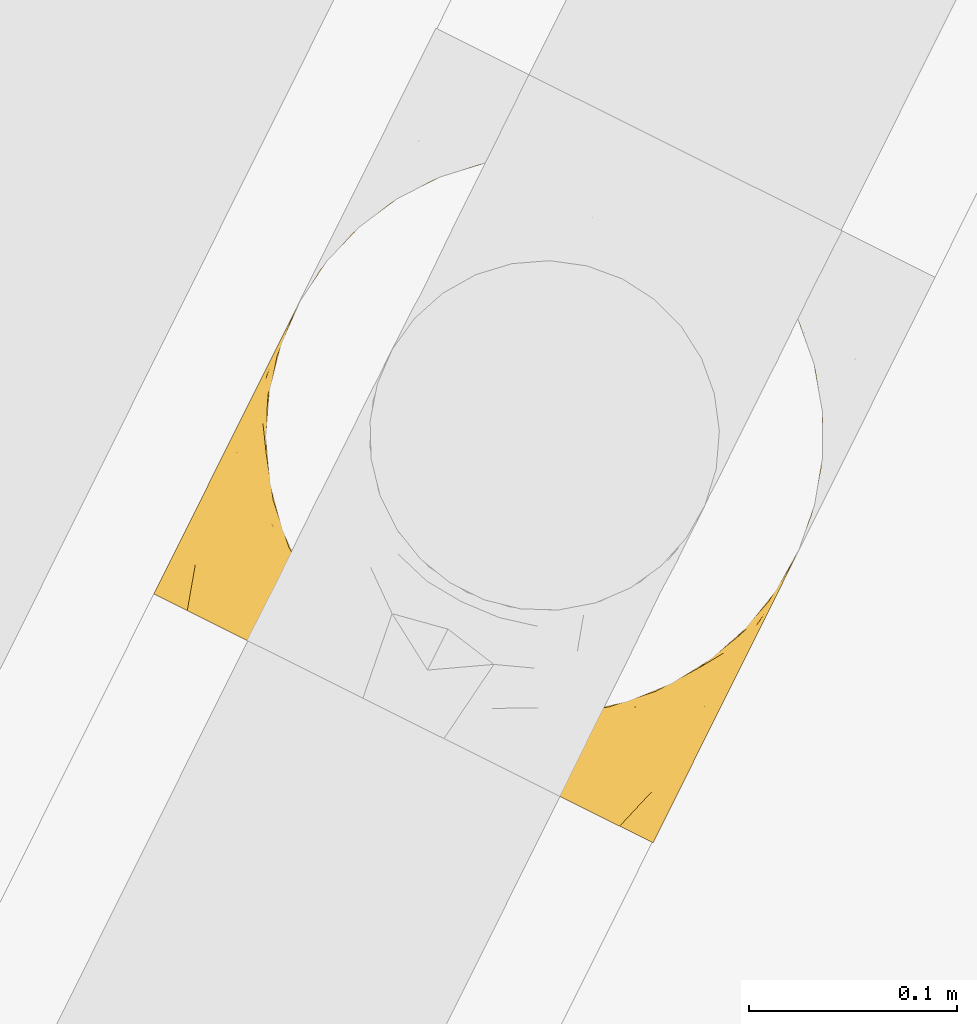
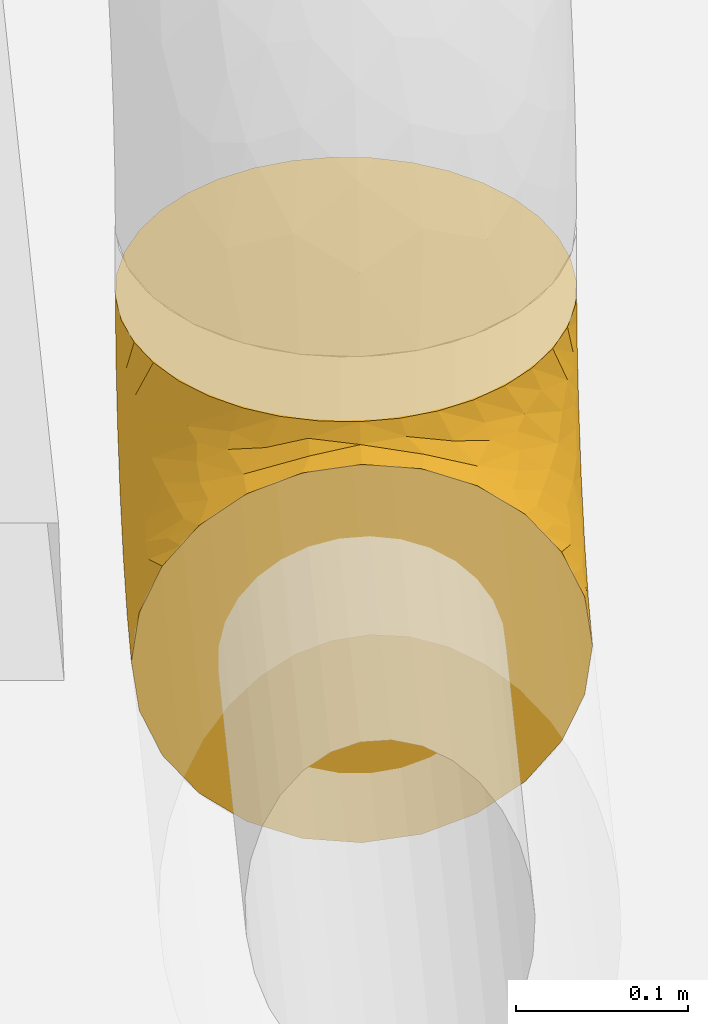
# One storey, part 50 of 91: 1 covering.
"""IFC2X3 building model written with IfcOpenShell, lengths in metres."""

from ifc_helpers import new_model, entity, si_unit, converted_unit, derived_unit, direction, frame, origin, place, context, subcontext, project, spatial, faceted_brep, element, save


model = new_model("IFC2X3")

# Units and contexts
model_context = context("Model", 3, precision=1e-05, world=origin(), true_north=direction((0.894925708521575, 0.446215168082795)))
context_of_model = context(None, 3, precision=1e-05, world=origin(), true_north=direction((0.894925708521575, 0.446215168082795)))
body_context = subcontext(model_context, "Body", "Model", "MODEL_VIEW")
ifc_project = project(units=[si_unit("LENGTHUNIT", "METRE"), si_unit("AREAUNIT", "SQUARE_METRE"), si_unit("VOLUMEUNIT", "CUBIC_METRE"), converted_unit("PLANEANGLEUNIT", "DEGREE", entity("IfcRatioMeasure", 0.0174532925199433), si_unit("PLANEANGLEUNIT", "RADIAN"), dimensions=[0, 0, 0, 0, 0, 0, 0]), si_unit("MASSUNIT", "GRAM", prefix="KILO"), si_unit("TIMEUNIT", "SECOND"), si_unit("FREQUENCYUNIT", "HERTZ"), si_unit("THERMODYNAMICTEMPERATUREUNIT", "DEGREE_CELSIUS"), derived_unit("THERMALTRANSMITTANCEUNIT", [(si_unit("MASSUNIT", "GRAM", prefix="KILO"), 1), (si_unit("THERMODYNAMICTEMPERATUREUNIT", "KELVIN"), -1), (si_unit("TIMEUNIT", "SECOND"), -3)]), derived_unit("VOLUMETRICFLOWRATEUNIT", [(si_unit("LENGTHUNIT", "METRE"), 3), (si_unit("TIMEUNIT", "SECOND"), -1)]), si_unit("ELECTRICCURRENTUNIT", "AMPERE"), si_unit("ELECTRICVOLTAGEUNIT", "VOLT"), si_unit("POWERUNIT", "WATT"), si_unit("FORCEUNIT", "NEWTON", prefix="KILO"), si_unit("ILLUMINANCEUNIT", "LUX"), si_unit("LUMINOUSFLUXUNIT", "LUMEN"), si_unit("LUMINOUSINTENSITYUNIT", "CANDELA"), si_unit("PRESSUREUNIT", "PASCAL")], contexts=[model_context, context_of_model])

# Site, building, storey
site_placement = place(None, frame((218.228324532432, 584.720189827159, 0.0), z_axis=(0.0, 0.0, 1.0), x_axis=(0.446215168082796, 0.894925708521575, 0.0)))
site = spatial("IfcSite", under=ifc_project, at=site_placement, Name="Default", CompositionType="ELEMENT")
building_placement = place(site_placement, origin())
building = spatial("IfcBuilding", under=site, at=building_placement, CompositionType="ELEMENT")
storey_placement = place(building_placement, origin())
storey = spatial("IfcBuildingStorey", under=building, at=storey_placement, Name="0 - Piano Terra", CompositionType="ELEMENT", Elevation=0.0)

# Covering
covering_placement = place(storey_placement, frame((-11.3326692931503, -4.52096176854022, 3.41425472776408)))
element("IfcCovering", 1, at=covering_placement, inside=storey, Name="Isolamento tubazione:Default", ObjectType="Isolamento tubazione:Default", PredefinedType="INSULATION", context=body_context, shape_type="Brep", body=[
    faceted_brep([(0.199474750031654, 0.00968458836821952, 0.287745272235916), (0.220669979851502, 0.0195677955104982, 0.287745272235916), (0.239827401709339, 0.0329822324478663, 0.287745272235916), (0.256363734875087, 0.0495196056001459, 0.287745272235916), (0.269775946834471, 0.0686761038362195, 0.287745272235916), (0.27965674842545, 0.0898679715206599, 0.287745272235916), (0.285707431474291, 0.112451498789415, 0.287745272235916), (0.287745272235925, 0.135745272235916, 0.287745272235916), (0.285707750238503, 0.159037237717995, 0.287745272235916), (0.279655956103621, 0.181624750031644, 0.287745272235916), (0.269772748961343, 0.202819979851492, 0.287745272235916), (0.256358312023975, 0.22197740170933, 0.287745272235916), (0.239820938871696, 0.238513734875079, 0.287745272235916), (0.220664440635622, 0.251925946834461, 0.287745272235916), (0.19947257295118, 0.26180674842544, 0.287745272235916), (0.176889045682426, 0.267857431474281, 0.287745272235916), (0.153595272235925, 0.269895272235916, 0.287745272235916), (0.138898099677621, 0.268609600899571, 0.287745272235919), (0.130303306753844, 0.267857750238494, 0.287745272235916), (0.107715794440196, 0.261805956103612, 0.287745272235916), (0.0865205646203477, 0.251922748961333, 0.287745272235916), (0.0673631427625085, 0.238508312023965, 0.287745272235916), (0.0508268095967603, 0.221970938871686, 0.287745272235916), (0.0374145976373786, 0.202814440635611, 0.287745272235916), (0.0275337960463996, 0.181622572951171, 0.287745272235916), (0.0214831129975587, 0.159039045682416, 0.287745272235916), (0.0194452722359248, 0.135745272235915, 0.287745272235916), (0.0214827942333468, 0.112453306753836, 0.287745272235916), (0.0275345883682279, 0.0898657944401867, 0.287745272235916), (0.0374177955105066, 0.0686705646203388, 0.287745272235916), (0.0508322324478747, 0.0495131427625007, 0.287745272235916), (0.0673696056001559, 0.0329768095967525, 0.287745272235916), (0.0865261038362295, 0.0195645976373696, 0.287745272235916), (0.107717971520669, 0.00968379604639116, 0.287745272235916), (0.130301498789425, 0.00363311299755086, 0.287745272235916), (0.138898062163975, 0.00288104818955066, 0.287745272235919), (0.153595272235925, 0.0015952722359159, 0.287745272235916), (0.176887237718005, 0.00363279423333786, 0.287745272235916), (0.0015952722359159, 0.135745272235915, 0.269895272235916), (0.0015952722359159, 0.170465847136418, 0.265324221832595), (0.0015952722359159, 0.202820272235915, 0.251922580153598), (0.0015952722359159, 0.230603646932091, 0.230603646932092), (0.0015952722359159, 0.241263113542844, 0.216711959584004), (0.0015952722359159, 0.251922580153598, 0.202820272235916), (0.00159527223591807, 0.258623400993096, 0.186643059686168), (0.0015952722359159, 0.265324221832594, 0.17046584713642), (0.00159527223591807, 0.267930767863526, 0.150667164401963), (0.0015952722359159, 0.269895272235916, 0.135745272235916), (0.0015952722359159, 0.265324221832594, 0.101024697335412), (0.0015952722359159, 0.251922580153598, 0.0686702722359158), (0.0015952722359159, 0.230603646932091, 0.0408868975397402), (0.0015952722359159, 0.202820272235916, 0.0195679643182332), (0.0015952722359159, 0.170465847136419, 0.00616632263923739), (0.0015952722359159, 0.135745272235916, 0.0015952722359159), (0.0015952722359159, 0.101024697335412, 0.00616632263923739), (0.0015952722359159, 0.0686702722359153, 0.0195679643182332), (0.0015952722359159, 0.0408868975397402, 0.0408868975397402), (0.0015952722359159, 0.0195679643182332, 0.0686702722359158), (0.0015952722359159, 0.00616632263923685, 0.101024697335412), (0.0015952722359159, 0.00159527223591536, 0.135745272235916), (0.0015952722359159, 0.00355977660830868, 0.150667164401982), (0.0015952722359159, 0.00616632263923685, 0.170465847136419), (0.00159527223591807, 0.0128671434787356, 0.186643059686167), (0.0015952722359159, 0.0195679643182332, 0.202820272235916), (0.0015952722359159, 0.0302274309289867, 0.216711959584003), (0.0015952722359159, 0.0408868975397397, 0.230603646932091), (0.0015952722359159, 0.0686702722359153, 0.251922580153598), (0.0015952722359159, 0.101024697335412, 0.265324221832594), (0.0793389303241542, 0.0978975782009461, 0.018025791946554), (0.0574203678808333, 0.135745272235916, 0.0070935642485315), (0.11110013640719, 0.135745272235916, 0.0233771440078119), (0.282246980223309, 0.135745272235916, 0.231920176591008), (0.273936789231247, 0.11177261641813, 0.207241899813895), (0.26596340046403, 0.135745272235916, 0.178240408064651), (0.251669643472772, 0.100505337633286, 0.158630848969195), (0.24115647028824, 0.0712492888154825, 0.164011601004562), (0.219063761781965, 0.0978507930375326, 0.110284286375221), (0.138231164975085, 0.103999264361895, 0.0406698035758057), (0.124159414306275, 0.0722251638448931, 0.0469889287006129), (0.0570178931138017, 0.0160910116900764, 0.0824390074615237), (0.188464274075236, 0.058552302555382, 0.104510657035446), (0.21482195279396, 0.0480332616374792, 0.150639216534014), (0.191593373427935, 0.0275482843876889, 0.1558220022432), (0.0819819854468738, 0.0374034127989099, 0.0581703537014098), (0.16057169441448, 0.135745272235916, 0.0498202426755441), (0.178269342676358, 0.0106572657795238, 0.19301425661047), (0.152774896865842, 0.0137471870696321, 0.145189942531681), (0.203933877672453, 0.135745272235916, 0.0854066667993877), (0.239520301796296, 0.135745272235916, 0.128768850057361), (0.0926265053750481, 0.00879690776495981, 0.114887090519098), (0.0427674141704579, 0.00413805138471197, 0.114577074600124), (0.0603098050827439, 0.0597755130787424, 0.0318283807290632), (0.225253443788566, 0.0346326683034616, 0.200254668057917), (0.106232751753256, 0.0201514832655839, 0.0941366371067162), (0.0409357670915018, 0.0015952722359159, 0.140924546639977), (0.0283269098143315, 0.0015952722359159, 0.139264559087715), (0.0157180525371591, 0.0015952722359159, 0.137604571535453), (0.0775952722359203, 0.0015952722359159, 0.156109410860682), (0.05926551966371, 0.0015952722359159, 0.14851697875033), (0.212298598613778, 0.0184912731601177, 0.235124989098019), (0.175571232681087, 0.0852623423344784, 0.073111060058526), (0.181506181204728, 0.112239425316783, 0.0679034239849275), (0.142030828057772, 0.00457586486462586, 0.17495543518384), (0.247977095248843, 0.0460705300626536, 0.235921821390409), (0.109075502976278, 0.0015952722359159, 0.180265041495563), (0.0933353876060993, 0.0015952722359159, 0.168187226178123), (0.269211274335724, 0.0846630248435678, 0.220056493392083), (0.156043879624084, 0.0628689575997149, 0.0728637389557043), (0.123868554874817, 0.0355258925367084, 0.0798632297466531), (0.150188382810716, 0.0271302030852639, 0.111228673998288), (0.162845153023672, 0.00380519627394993, 0.216594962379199), (0.151735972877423, 0.0015952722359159, 0.273622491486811), (0.150075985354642, 0.0015952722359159, 0.261013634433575), (0.148415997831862, 0.0015952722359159, 0.248404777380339), (0.133231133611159, 0.0015952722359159, 0.21174527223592), (0.121153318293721, 0.0015952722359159, 0.196005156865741), (0.115114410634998, 0.0015952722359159, 0.188135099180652), (0.239896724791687, 0.0525693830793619, 0.190837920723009), (0.117252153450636, 0.0516583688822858, 0.0587716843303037), (0.140823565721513, 0.0015952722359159, 0.230075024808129), (0.0862333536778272, 0.0140501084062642, 0.243401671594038), (0.108928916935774, 0.00515149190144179, 0.231201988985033), (0.10151694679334, 0.00998506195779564, 0.254512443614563), (0.0282177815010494, 0.00597455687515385, 0.172784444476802), (0.0488021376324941, 0.00407410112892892, 0.170566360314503), (0.0233658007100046, 0.0131113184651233, 0.192583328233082), (0.0570559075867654, 0.0372902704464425, 0.262635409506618), (0.0379394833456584, 0.0618583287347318, 0.270963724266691), (0.0175473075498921, 0.0238766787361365, 0.211432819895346), (0.018650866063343, 0.0329408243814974, 0.224176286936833), (0.0712470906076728, 0.00860195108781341, 0.203626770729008), (0.0188530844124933, 0.108517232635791, 0.27641960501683), (0.0160462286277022, 0.0472120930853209, 0.238613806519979), (0.0301454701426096, 0.0433328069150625, 0.241020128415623), (0.0172767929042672, 0.067717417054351, 0.254920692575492), (0.0898107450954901, 0.00552610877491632, 0.206743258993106), (0.0128211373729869, 0.098760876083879, 0.267614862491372), (0.0240178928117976, 0.0809337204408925, 0.268485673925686), (0.041263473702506, 0.0419407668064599, 0.248077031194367), (0.0518606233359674, 0.0232259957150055, 0.226858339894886), (0.0142171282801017, 0.135745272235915, 0.275123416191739), (0.0478490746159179, 0.0425649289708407, 0.257085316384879), (0.0703790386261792, 0.0174802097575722, 0.231774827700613), (0.0663251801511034, 0.00424775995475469, 0.180278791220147), (0.0382210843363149, 0.0120623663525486, 0.194639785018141), (0.117739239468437, 0.00575824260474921, 0.262576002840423), (0.116132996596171, 0.0053927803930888, 0.250936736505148), (0.120325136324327, 0.00335207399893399, 0.233920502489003), (0.072521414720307, 0.0269382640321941, 0.268344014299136), (0.0337025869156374, 0.0595709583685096, 0.261333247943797), (0.102415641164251, 0.00501283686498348, 0.219203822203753), (0.0479963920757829, 0.0136501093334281, 0.203223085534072), (0.0194576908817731, 0.00420057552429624, 0.163330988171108), (0.033229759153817, 0.0290306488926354, 0.224507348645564), (0.0186511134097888, 0.238549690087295, 0.224176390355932), (0.0160469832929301, 0.224278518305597, 0.238613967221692), (0.0332307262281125, 0.24246051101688, 0.22450692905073), (0.0570503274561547, 0.234195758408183, 0.262634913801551), (0.0124987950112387, 0.165365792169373, 0.269609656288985), (0.072516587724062, 0.244549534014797, 0.268340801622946), (0.120317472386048, 0.268137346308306, 0.233920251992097), (0.133231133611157, 0.269895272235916, 0.211745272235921), (0.108926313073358, 0.266339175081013, 0.231195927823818), (0.0172784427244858, 0.203774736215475, 0.254920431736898), (0.0703674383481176, 0.254003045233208, 0.231782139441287), (0.0862283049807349, 0.257439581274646, 0.24339600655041), (0.019923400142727, 0.165959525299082, 0.276899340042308), (0.0240181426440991, 0.190554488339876, 0.268487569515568), (0.0283269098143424, 0.269895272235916, 0.139264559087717), (0.0157180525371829, 0.269895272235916, 0.137604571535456), (0.0712466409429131, 0.262888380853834, 0.203627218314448), (0.0518636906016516, 0.248264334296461, 0.226861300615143), (0.0488021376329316, 0.267416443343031, 0.170566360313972), (0.0775952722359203, 0.269895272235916, 0.156109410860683), (0.05926551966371, 0.269895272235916, 0.148516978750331), (0.148415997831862, 0.269895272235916, 0.248404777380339), (0.140823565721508, 0.269895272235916, 0.230075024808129), (0.117734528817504, 0.265731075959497, 0.26257695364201), (0.0233657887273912, 0.25837919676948, 0.192583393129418), (0.0175473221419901, 0.24761387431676, 0.211432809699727), (0.0282177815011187, 0.265515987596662, 0.172784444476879), (0.0478410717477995, 0.228915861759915, 0.257090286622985), (0.0379359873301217, 0.209625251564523, 0.270967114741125), (0.033701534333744, 0.211915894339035, 0.261335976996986), (0.151735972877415, 0.269895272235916, 0.273622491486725), (0.150075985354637, 0.269895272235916, 0.261013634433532), (0.101511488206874, 0.261503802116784, 0.254510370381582), (0.0412589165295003, 0.229543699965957, 0.248080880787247), (0.102411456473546, 0.266477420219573, 0.219199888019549), (0.089806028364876, 0.265962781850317, 0.206747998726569), (0.109075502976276, 0.269895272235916, 0.180265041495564), (0.116128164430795, 0.266096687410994, 0.250936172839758), (0.0663252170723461, 0.267242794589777, 0.180278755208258), (0.121153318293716, 0.269895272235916, 0.196005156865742), (0.0479965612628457, 0.257840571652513, 0.203222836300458), (0.0382211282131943, 0.259428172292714, 0.19463981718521), (0.115114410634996, 0.269895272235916, 0.188135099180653), (0.0933353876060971, 0.269895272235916, 0.168187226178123), (0.0301467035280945, 0.228158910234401, 0.241019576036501), (0.0194576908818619, 0.267289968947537, 0.163330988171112), (0.0409357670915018, 0.269895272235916, 0.140924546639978), (0.0603098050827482, 0.211715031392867, 0.0318283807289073), (0.212294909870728, 0.253001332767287, 0.235125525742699), (0.178268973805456, 0.260833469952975, 0.193014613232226), (0.191589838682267, 0.24394313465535, 0.155819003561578), (0.225247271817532, 0.236862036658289, 0.200251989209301), (0.0926265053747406, 0.262693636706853, 0.114887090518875), (0.0427674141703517, 0.267352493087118, 0.114577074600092), (0.142030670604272, 0.266914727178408, 0.174955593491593), (0.188454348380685, 0.212936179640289, 0.104498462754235), (0.241149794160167, 0.200246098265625, 0.164004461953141), (0.219063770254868, 0.173639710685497, 0.110284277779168), (0.239892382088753, 0.218925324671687, 0.190835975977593), (0.269208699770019, 0.186830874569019, 0.220051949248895), (0.0570178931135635, 0.255399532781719, 0.0824390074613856), (0.123868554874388, 0.235964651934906, 0.0798632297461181), (0.117252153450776, 0.219832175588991, 0.0587716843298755), (0.081981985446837, 0.234087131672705, 0.0581703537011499), (0.0793389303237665, 0.17359296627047, 0.0180257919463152), (0.106232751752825, 0.251339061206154, 0.0941366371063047), (0.138231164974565, 0.16749128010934, 0.0406698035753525), (0.124159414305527, 0.199265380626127, 0.0469889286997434), (0.214821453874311, 0.223454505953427, 0.150634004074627), (0.162844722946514, 0.267685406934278, 0.21659477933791), (0.175571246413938, 0.186228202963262, 0.0731110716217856), (0.15018838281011, 0.244360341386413, 0.111228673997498), (0.152774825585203, 0.257743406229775, 0.145190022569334), (0.247971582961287, 0.225425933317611, 0.235921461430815), (0.181506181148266, 0.159251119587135, 0.0679034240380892), (0.273936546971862, 0.159719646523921, 0.207242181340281), (0.251423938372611, 0.163547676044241, 0.154294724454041), (0.156036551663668, 0.208621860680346, 0.072858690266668)], [[[0, 1, 2, 3, 4, 5, 6, 7, 8, 9, 10, 11, 12, 13, 14, 15, 16, 17, 18, 19, 20, 21, 22, 23, 24, 25, 26, 27, 28, 29, 30, 31, 32, 33, 34, 35, 36, 37]], [[38, 39, 40, 41, 42, 43, 44, 45, 46, 47, 48, 49, 50, 51, 52, 53, 54, 55, 56, 57, 58, 59, 60, 61, 62, 63, 64, 65, 66, 67]], [[68, 69, 70]], [[69, 54, 53]], [[71, 72, 73]], [[74, 75, 76]], [[68, 77, 78]], [[79, 58, 57]], [[68, 55, 54]], [[80, 81, 82]], [[83, 57, 56]], [[84, 77, 70]], [[85, 86, 82]], [[76, 87, 88]], [[89, 90, 79]], [[91, 83, 56]], [[92, 82, 81]], [[89, 93, 86]], [[90, 94, 95, 96, 59]], [[90, 97, 98, 94]], [[99, 1, 0]], [[59, 58, 90]], [[100, 101, 76]], [[102, 86, 85]], [[89, 102, 97]], [[100, 78, 77]], [[103, 99, 92]], [[102, 104, 105, 97]], [[55, 91, 56]], [[74, 73, 72]], [[72, 6, 5]], [[4, 106, 5]], [[80, 107, 100]], [[106, 72, 5]], [[82, 99, 85]], [[3, 103, 4]], [[108, 109, 93]], [[71, 7, 6]], [[76, 75, 80]], [[103, 3, 2]], [[54, 69, 68]], [[110, 36, 111, 112, 113]], [[2, 1, 103]], [[110, 114, 102]], [[102, 114, 115, 116, 104]], [[36, 110, 37]], [[4, 103, 106]], [[99, 37, 85]], [[79, 93, 89]], [[102, 85, 110]], [[117, 103, 92]], [[117, 106, 103]], [[1, 99, 103]], [[107, 108, 118]], [[37, 99, 0]], [[73, 74, 88]], [[89, 86, 102]], [[68, 78, 91]], [[82, 86, 109]], [[80, 82, 109]], [[82, 92, 99]], [[68, 91, 55]], [[118, 91, 78]], [[6, 72, 71]], [[74, 106, 75]], [[80, 75, 81]], [[117, 81, 75]], [[57, 83, 79]], [[83, 108, 93]], [[37, 110, 85]], [[110, 113, 119, 114]], [[81, 117, 92]], [[106, 117, 75]], [[70, 77, 68]], [[84, 87, 101]], [[77, 84, 101]], [[80, 100, 76]], [[76, 101, 87]], [[77, 101, 100]], [[83, 93, 79]], [[86, 93, 109]], [[118, 108, 83]], [[80, 109, 108]], [[91, 118, 83]], [[107, 118, 78]], [[100, 107, 78]], [[108, 107, 80]], [[79, 90, 58]], [[90, 89, 97]], [[88, 74, 76]], [[106, 74, 72]], [[120, 121, 122]], [[60, 59, 96, 95, 61]], [[123, 124, 125]], [[126, 29, 127]], [[127, 29, 28]], [[123, 98, 124]], [[128, 129, 65]], [[104, 130, 105]], [[131, 27, 26]], [[62, 123, 63]], [[132, 133, 134]], [[104, 116, 135]], [[38, 67, 136]], [[137, 136, 134]], [[138, 133, 139]], [[140, 38, 136]], [[131, 136, 137]], [[126, 141, 142]], [[127, 28, 137]], [[124, 143, 144]], [[145, 33, 32]], [[65, 129, 132]], [[146, 122, 147]], [[148, 122, 31]], [[149, 127, 137]], [[33, 113, 112]], [[35, 34, 112, 111, 36]], [[134, 67, 66]], [[120, 126, 142]], [[33, 145, 113]], [[140, 131, 26]], [[141, 126, 127]], [[126, 120, 148]], [[30, 148, 31]], [[33, 112, 34]], [[28, 27, 131]], [[126, 30, 29]], [[121, 147, 122]], [[31, 122, 32]], [[128, 125, 144]], [[115, 121, 150]], [[121, 115, 114]], [[97, 105, 143]], [[130, 104, 135]], [[139, 142, 138]], [[143, 151, 144]], [[123, 94, 98]], [[62, 61, 152]], [[123, 62, 152]], [[98, 97, 124]], [[143, 124, 97]], [[125, 124, 144]], [[126, 148, 30]], [[122, 148, 120]], [[66, 65, 132]], [[149, 134, 138]], [[125, 128, 64]], [[123, 125, 63]], [[64, 128, 65]], [[64, 63, 125]], [[144, 151, 129]], [[144, 129, 128]], [[129, 153, 132]], [[133, 132, 153]], [[134, 66, 132]], [[153, 151, 139]], [[138, 134, 133]], [[153, 139, 133]], [[142, 139, 130]], [[146, 32, 122]], [[113, 145, 119]], [[94, 152, 95]], [[28, 131, 137]], [[136, 131, 140]], [[134, 136, 67]], [[134, 149, 137]], [[141, 149, 138]], [[149, 141, 127]], [[142, 141, 138]], [[121, 120, 150]], [[147, 121, 114]], [[120, 142, 150]], [[150, 116, 115]], [[135, 150, 142]], [[150, 135, 116]], [[130, 135, 142]], [[114, 119, 147]], [[146, 119, 145]], [[119, 146, 147]], [[32, 146, 145]], [[105, 130, 143]], [[130, 139, 151]], [[130, 151, 143]], [[129, 151, 153]], [[95, 152, 61]], [[123, 152, 94]], [[154, 155, 156]], [[22, 157, 23]], [[38, 140, 158]], [[22, 159, 157]], [[160, 161, 162]], [[39, 158, 163]], [[164, 157, 165]], [[166, 24, 167]], [[168, 169, 47, 46, 45]], [[164, 170, 171]], [[172, 173, 174]], [[175, 176, 177]], [[178, 42, 179]], [[41, 155, 154]], [[39, 163, 40]], [[43, 180, 44]], [[181, 182, 157]], [[182, 183, 167]], [[166, 167, 158]], [[19, 177, 20]], [[17, 16, 184, 185, 18]], [[182, 167, 24]], [[23, 182, 24]], [[186, 21, 20]], [[181, 164, 187]], [[188, 165, 162]], [[22, 21, 159]], [[170, 189, 190]], [[159, 186, 165]], [[191, 20, 177]], [[173, 172, 192]], [[167, 163, 158]], [[23, 157, 182]], [[185, 175, 19]], [[18, 185, 19]], [[162, 165, 186]], [[193, 188, 162]], [[166, 26, 25]], [[194, 170, 192]], [[154, 195, 179]], [[190, 189, 196]], [[172, 174, 180]], [[170, 190, 197]], [[192, 197, 173]], [[156, 198, 171]], [[199, 45, 44]], [[172, 178, 195]], [[180, 200, 199]], [[200, 180, 174]], [[178, 180, 43]], [[192, 172, 195]], [[186, 159, 21]], [[157, 159, 165]], [[183, 163, 167]], [[155, 198, 156]], [[180, 178, 172]], [[42, 41, 179]], [[178, 43, 42]], [[154, 179, 41]], [[178, 179, 195]], [[155, 41, 40]], [[154, 156, 194]], [[40, 163, 155]], [[198, 155, 163]], [[163, 187, 198]], [[171, 198, 187]], [[164, 171, 187]], [[171, 170, 194]], [[175, 177, 19]], [[176, 160, 191]], [[199, 168, 45]], [[38, 158, 39]], [[140, 26, 166]], [[140, 166, 158]], [[24, 166, 25]], [[164, 181, 157]], [[183, 181, 187]], [[181, 183, 182]], [[163, 183, 187]], [[160, 162, 186]], [[193, 162, 161]], [[188, 193, 196]], [[164, 165, 188]], [[189, 170, 164]], [[196, 189, 188]], [[188, 189, 164]], [[191, 160, 186]], [[176, 161, 160]], [[20, 191, 186]], [[176, 191, 177]], [[194, 192, 195]], [[170, 197, 192]], [[154, 194, 195]], [[194, 156, 171]], [[180, 199, 44]], [[168, 199, 200]], [[201, 51, 50]], [[15, 202, 203]], [[204, 202, 205]], [[173, 206, 207]], [[207, 200, 174, 173]], [[47, 207, 48]], [[208, 190, 196, 193, 161]], [[209, 210, 211]], [[13, 202, 14]], [[208, 173, 197, 190]], [[212, 213, 210]], [[48, 207, 214]], [[69, 53, 52]], [[203, 202, 204]], [[215, 216, 217]], [[201, 218, 51]], [[202, 15, 14]], [[70, 69, 218]], [[217, 214, 219]], [[220, 218, 221]], [[201, 50, 217]], [[49, 217, 50]], [[220, 70, 218]], [[222, 209, 204]], [[223, 161, 176, 175]], [[224, 209, 211]], [[204, 225, 226]], [[206, 208, 226]], [[16, 15, 223]], [[15, 203, 223]], [[13, 12, 227]], [[214, 49, 48]], [[202, 227, 205]], [[69, 52, 218]], [[51, 218, 52]], [[202, 13, 227]], [[217, 219, 215]], [[228, 87, 84]], [[73, 229, 71]], [[88, 211, 230]], [[211, 88, 87]], [[11, 227, 12]], [[9, 213, 10]], [[10, 213, 227]], [[229, 8, 71]], [[173, 208, 206]], [[7, 71, 8]], [[213, 229, 230]], [[226, 208, 203]], [[212, 205, 227]], [[228, 220, 224]], [[213, 230, 210]], [[225, 204, 209]], [[208, 223, 203]], [[10, 227, 11]], [[9, 8, 229]], [[226, 225, 219]], [[203, 204, 226]], [[204, 205, 222]], [[216, 201, 217]], [[218, 201, 221]], [[88, 230, 73]], [[229, 213, 9]], [[212, 222, 205]], [[210, 209, 222]], [[219, 214, 206]], [[217, 49, 214]], [[161, 223, 208]], [[223, 175, 185, 184, 16]], [[213, 212, 227]], [[222, 212, 210]], [[224, 220, 221]], [[70, 220, 84]], [[224, 221, 231]], [[228, 211, 87]], [[220, 228, 84]], [[211, 228, 224]], [[226, 219, 206]], [[219, 225, 215]], [[225, 209, 215]], [[216, 231, 221]], [[231, 215, 209]], [[201, 216, 221]], [[215, 231, 216]], [[224, 231, 209]], [[207, 47, 169, 168, 200]], [[214, 207, 206]], [[210, 230, 211]], [[73, 230, 229]]]),
])

save(model, "model.ifc")
